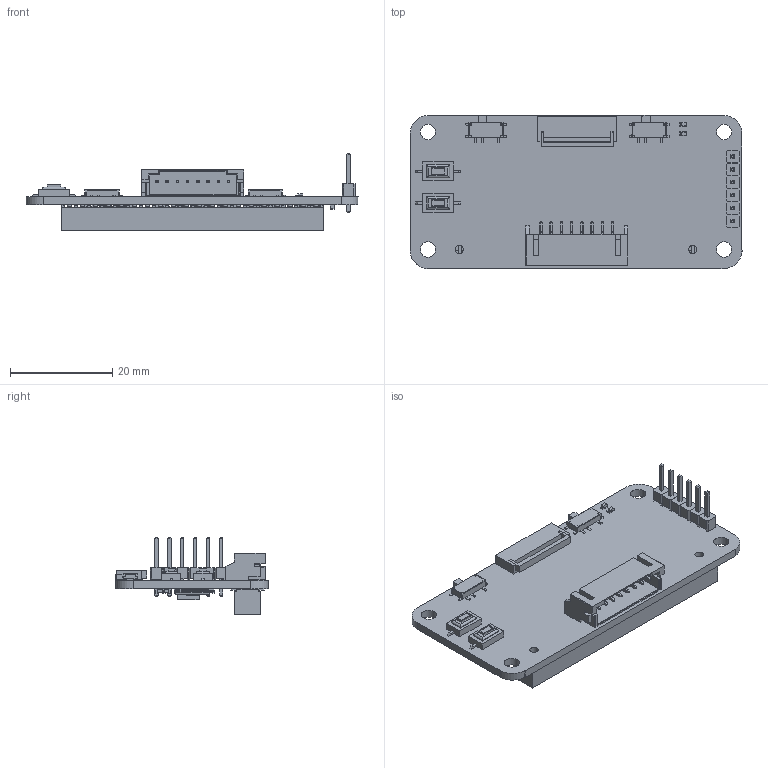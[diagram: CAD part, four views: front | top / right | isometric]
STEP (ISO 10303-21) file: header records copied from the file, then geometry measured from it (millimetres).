
FILE_DESCRIPTION(/* description */ (''),/* implementation_level */ '2;1');
FILE_NAME(/* name */ 'E-paper Driver Board-V1.2_step.prt.stp',/* time_stamp */ '2025-08-19T10:58:10+08:00',/* author */ (''),/* organization */ (''),/* preprocessor_version */ 'ST-DEVELOPER v16.7',/* originating_system */ 'SIEMENS PLM Software NX 12.0',/* authorisation */ '');
FILE_SCHEMA (('AUTOMOTIVE_DESIGN { 1 0 10303 214 3 1 1 1 }'));
Products named in the file (73): 3_1_2_3_4_5_600; 2_1_2_3_4_5_600; 1_1_2_3_4_5_6_A; PH2_0_SMD-W__1_2_30004; C_060347894; LOGO_; User_Library-LED_0603_R_Pad; User_Library-LED_0603_R_Pocket001; User_Library-LED_0603_R_Fillet; User_Library-LED_0603_R_Pad004; User_Library-LED_0603_R_Pocket002; txs0108epwr; SOT23-5-2; XEL4020; SOD123; sc70-3; Slide-SW_SPDT; Female-Header-2_54-SMD-40; User_Library-R0603-2; 2_54PIN_single; Open CASCADE STEP translator 6.8 1.1.1; A方形按键; Ajiekou; U2; U1; SW1; R4; R3; R2; L1; D3; D2; D1; C_0603; C17; C14; C16; C12; C13; C8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
Assembly tree (114 placements, depth 8):
  E-paper Driver Board-V1.2_step
    Board
      Open CASCADE STEP translator 6.8 1.1.1
    J1
      2_54PIN_single  x6
    R8
      User_Library-R0603-2
    R7
      User_Library-R0603-2
    P2
      Female-Header-2_54-SMD-40
    LED2
      User_Library-LED_0603_R
        User_Library-LED_0603_R_Pocket002
        User_Library-LED_0603_R_Pad004
        User_Library-LED_0603_R_Fillet
        User_Library-LED_0603_R_Pocket001
        User_Library-LED_0603_R_Pad
    LED1
      User_Library-LED_0603_R
        User_Library-LED_0603_R_Pocket002
        User_Library-LED_0603_R_Pad004
        User_Library-LED_0603_R_Fillet
        User_Library-LED_0603_R_Pocket001
        User_Library-LED_0603_R_Pad
    C19
      C_0603
        LOGO_
        C_060347894
    C18
      C_0603
        LOGO_
        C_060347894
    C15
      C_0603
        LOGO_
        C_060347894
    R6
      User_Library-R0603-2
    R5
      User_Library-R0603-2
    SW2
      Slide-SW_SPDT
    R1
      User_Library-R0603-2
    Q1
      sc70-3
    C11
      C_0603
        LOGO_
        C_060347894
    C10
      C_0603
        LOGO_
        C_060347894
    C9
      C_0603
        LOGO_
        C_060347894
    P1
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Bounding box: 65 x 30.01 x 15.24 mm (x, y, z)
Volume: 4532.9 mm3; surface area: 9314 mm2
Topology: 389 solids, 389 shells, 8186 faces, 20538 edges, 13266 vertices
Faces by surface type: plane 4518, bspline 1875, cylinder 1485, sphere 194, torus 114
Full cylindrical faces by diameter (mm): 0.9 x4, 1 x6, 1.65 x2, 3 x4
Entity records: 110297 total; most frequent: CARTESIAN_POINT 26913, ORIENTED_EDGE 15590, DIRECTION 13435, EDGE_CURVE 7795, LINE 6269, VECTOR 6269, VERTEX_POINT 5095, AXIS2_PLACEMENT_3D 3583
